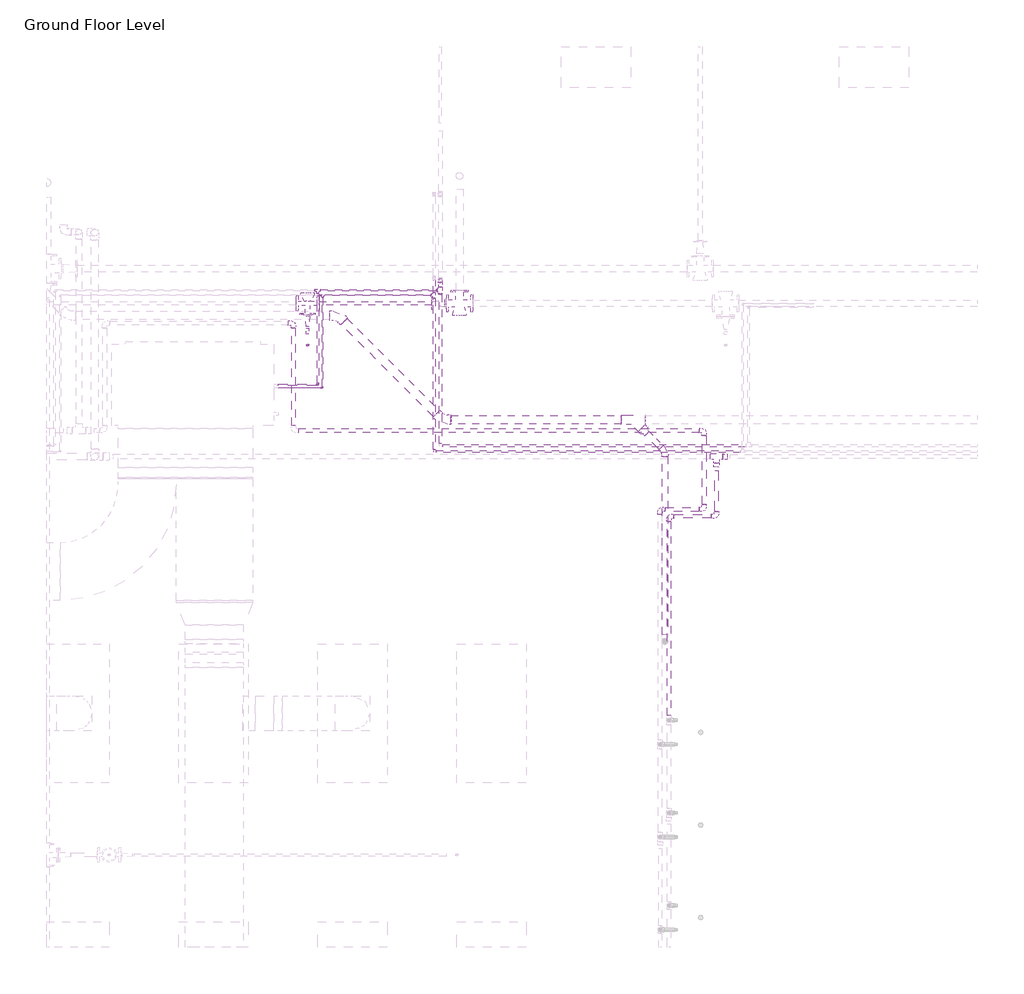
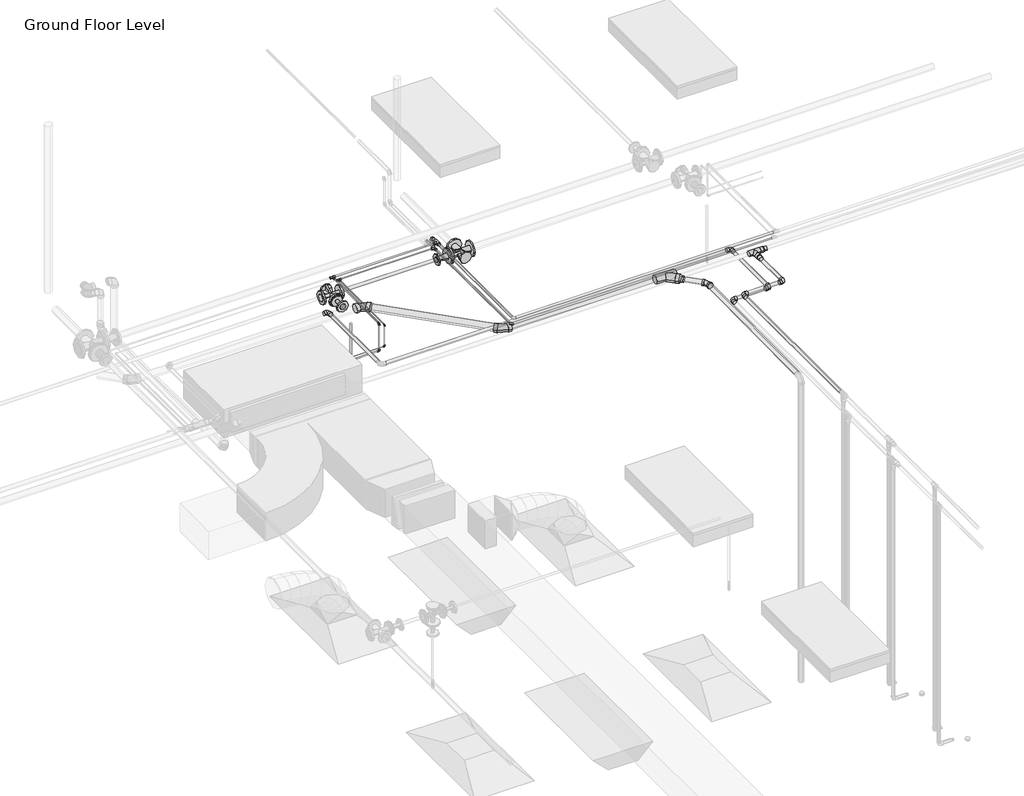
# One storey, part 53 of 72: 36 pipe fittings, 29 pipe segments, 1 fire suppression terminal.
"""IFC4 building model written with IfcOpenShell, lengths in millimetres."""

from ifc_helpers import new_model, si_unit, point, frame, frame_2d, origin, place, context, project, spatial, circle_curve, trimmed, segment, composite_curve, outline, extrude, transform, mapped, element, save
from components import m_sprinkler_pendent_15_mm_pendent_06fcbd8e, m_bend_pvc_sch_40_dwv_standard_9e3ead78, m_bend_pvc_sch_40_dwv_standard_3e306cb9, m_elbow_generic_standard_a088f956, m_elbow_generic_standard_2a704253, m_elbow_generic_standard_f25111a3, m_elbow_generic_standard_aa88c7e2, m_elbow_generic_standard_bb5ffebe, m_elbow_generic_standard_463efa77, m_reducer_flanged_cs_class_150_standard_ccf252ad, m_reducer_flanged_cs_class_150_standard_a7631c35, m_reducer_pvc_sch_40_dwv_standard_daff2b06, m_tee_generic_standard_cdc1cff5, m_tee_generic_standard_d9c36a1d, m_tee_generic_standard_3138dd84, m_tee_generic_standard_5078887e, m_tee_pvc_sch_40_standard_5dbb3026, m_tee_round_base_flanged_cs_class_150_standard_dd767e04, m_tee_round_base_flanged_cs_class_150_standard_7e5987a1, m_transition_generic_standard_6dc712c0, m_transition_generic_standard_b63c8674, m_transition_generic_standard_1c56dba2, m_transition_generic_standard_a7d161d7, m_transition_generic_standard_5a02929d, m_transition_generic_standard_5f8a9689, standard_517a5a8d, standard_08ff6011, standard_d0d0b892

model = new_model("IFC4")

# Units and contexts
model_context = context("Model", 3, world=origin())
ifc_project = project(units=[si_unit("LENGTHUNIT", "METRE", prefix="MILLI")], contexts=[model_context])

# Site, building, storey
site = spatial("IfcSite", under=ifc_project)
building = spatial("IfcBuilding", under=site)
storey = spatial("IfcBuildingStorey", under=building, Name="Ground Floor Level", Elevation=900.0)

# Fire suppression terminal
placement = place(None, origin())
m_sprinkler_pendent_15_mm_pendent_shape = m_sprinkler_pendent_15_mm_pendent_06fcbd8e(model_context)
element("IfcFireSuppressionTerminal", 1, ObjectType="M_Sprinkler - Pendent : 15 mm Pendent", at=placement, inside=storey, context=model_context, shape_type="MappedRepresentation", body=[
    mapped(m_sprinkler_pendent_15_mm_pendent_shape, transform((-3723.9852405, 14413.1701264, 3650.0), x_axis=(1.0, 0.0, 0.0), y_axis=(0.0, 1.0, 0.0), z_axis=(0.0, 0.0, 1.0))),
])

# Pipe fittings
m_bend_pvc_sch_40_dwv_standard_shape = m_bend_pvc_sch_40_dwv_standard_9e3ead78(model_context)
element("IfcPipeFitting", 2, ObjectType="M_Bend - PVC - Sch 40 - DWV : Standard", at=placement, inside=storey, context=model_context, shape_type="MappedRepresentation", body=[
    mapped(m_bend_pvc_sch_40_dwv_standard_shape, transform((-3461.339311, 14668.7334723, 4139.7239678), x_axis=(-0.707093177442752, 0.7070575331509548, 0.009427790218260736), y_axis=(-0.7070496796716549, -0.7071481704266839, 0.004713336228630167), z_axis=(0.009999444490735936, -0.003333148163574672, 0.9999444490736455))),
])
element("IfcPipeFitting", 3, ObjectType="M_Bend - PVC - Sch 40 - DWV : Standard", at=placement, inside=storey, context=model_context, shape_type="MappedRepresentation", body=[
    mapped(m_bend_pvc_sch_40_dwv_standard_shape, transform((-2561.2921336, 13768.7316659, 4127.72349), x_axis=(0.7070931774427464, -0.7070575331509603, -0.009427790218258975), y_axis=(0.7070496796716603, 0.7071481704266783, -0.0047133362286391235), z_axis=(0.009999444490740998, -0.003333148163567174, 0.9999444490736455))),
])
m_bend_pvc_sch_40_dwv_standard_2_shape = m_bend_pvc_sch_40_dwv_standard_3e306cb9(model_context)
element("IfcPipeFitting", 4, ObjectType="M_Bend - PVC - Sch 40 - DWV : Standard", at=placement, inside=storey, context=model_context, shape_type="MappedRepresentation", body=[
    mapped(m_bend_pvc_sch_40_dwv_standard_2_shape, transform((-642.2357232, 13495.4654482, 4110.1731446), x_axis=(0.0, 0.9999500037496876, 0.009999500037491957), y_axis=(-0.9999912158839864, -4.191228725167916e-05, 0.004191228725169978), z_axis=(0.004191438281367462, -0.00999941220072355, 0.9999412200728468))),
])
m_elbow_generic_standard_shape = m_elbow_generic_standard_a088f956(model_context)
element("IfcPipeFitting", 5, ObjectType="M_Elbow - Generic : Standard", at=placement, inside=storey, context=model_context, shape_type="MappedRepresentation", body=[
    mapped(m_elbow_generic_standard_shape, transform((-3637.0883718, 14069.8153534, 4380.0), x_axis=(0.0, 0.0, 1.0), y_axis=(0.0, 1.0, 0.0), z_axis=(-1.0, 0.0, 0.0))),
])
m_elbow_generic_standard_2_shape = m_elbow_generic_standard_2a704253(model_context)
element("IfcPipeFitting", 6, ObjectType="M_Elbow - Generic : Standard", at=placement, inside=storey, context=model_context, shape_type="MappedRepresentation", body=[
    mapped(m_elbow_generic_standard_2_shape, transform((-3597.0886568, 14044.8153534, 4365.0), x_axis=(0.0, 0.0, 1.0), y_axis=(0.0, 1.0, 0.0), z_axis=(-1.0, 0.0, 0.0))),
])
m_elbow_generic_standard_3_shape = m_elbow_generic_standard_f25111a3(model_context)
element("IfcPipeFitting", 7, ObjectType="M_Elbow - Generic : Standard", at=placement, inside=storey, context=model_context, shape_type="MappedRepresentation", body=[
    mapped(m_elbow_generic_standard_3_shape, transform((-3597.0886568, 14044.8153534, 4134.9021206), x_axis=(0.9999999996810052, 0.0, 2.525845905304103e-05), y_axis=(-2.525845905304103e-05, 0.0, 0.9999999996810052), z_axis=(0.0, -1.0, 0.0))),
])
m_elbow_generic_standard_4_shape = m_elbow_generic_standard_aa88c7e2(model_context)
element("IfcPipeFitting", 8, ObjectType="M_Elbow - Generic : Standard", at=placement, inside=storey, context=model_context, shape_type="MappedRepresentation", body=[
    mapped(m_elbow_generic_standard_4_shape, transform((-3637.0883718, 14069.8153534, 4084.1021206), x_axis=(0.9999999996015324, 0.0, 2.823004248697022e-05), y_axis=(-2.823004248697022e-05, 0.0, 0.9999999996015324), z_axis=(0.0, -1.0, 0.0))),
])
m_elbow_generic_standard_5_shape = m_elbow_generic_standard_bb5ffebe(model_context)
element("IfcPipeFitting", 9, ObjectType="M_Elbow - Generic : Standard", at=placement, inside=storey, context=model_context, shape_type="MappedRepresentation", body=[
    mapped(m_elbow_generic_standard_5_shape, transform((-2632.5317947, 13494.0185138, 4365.0), x_axis=(0.0, -1.0, 0.0), y_axis=(1.0, 0.0, 0.0), z_axis=(0.0, 0.0, 1.0))),
])
m_elbow_generic_standard_6_shape = m_elbow_generic_standard_463efa77(model_context)
element("IfcPipeFitting", 10, ObjectType="M_Elbow - Generic : Standard", at=placement, inside=storey, context=model_context, shape_type="MappedRepresentation", body=[
    mapped(m_elbow_generic_standard_6_shape, transform((-2579.6952605, 14974.394156, 4380.0), x_axis=(0.0, 1.0, 0.0), y_axis=(0.0, 0.0, -1.0), z_axis=(-1.0, 0.0, 0.0))),
])
m_reducer_flanged_cs_class_150_standard_shape = m_reducer_flanged_cs_class_150_standard_ccf252ad(model_context)
element("IfcPipeFitting", 11, ObjectType="M_Reducer - Flanged - CS - Class 150 : Standard", at=placement, inside=storey, context=model_context, shape_type="MappedRepresentation", body=[
    mapped(m_reducer_flanged_cs_class_150_standard_shape, transform((-3723.9852405, 14672.759591, 4291.0943441), x_axis=(0.0, -1.0, 0.0), y_axis=(1.0, 0.0, 0.0), z_axis=(0.0, 0.0, 1.0))),
])
m_reducer_flanged_cs_class_150_standard_2_shape = m_reducer_flanged_cs_class_150_standard_a7631c35(model_context)
element("IfcPipeFitting", 12, ObjectType="M_Reducer - Flanged - CS - Class 150 : Standard", at=placement, inside=storey, context=model_context, shape_type="MappedRepresentation", body=[
    mapped(m_reducer_flanged_cs_class_150_standard_2_shape, transform((-2527.9259545, 14773.4681847, 4291.0943441), x_axis=(-1.0, 0.0, 0.0), y_axis=(0.0, -1.0, 0.0), z_axis=(0.0, 0.0, 1.0))),
])
m_reducer_pvc_sch_40_dwv_standard_shape = m_reducer_pvc_sch_40_dwv_standard_daff2b06(model_context)
element("IfcPipeFitting", 13, ObjectType="M_Reducer - PVC - Sch 40 - DWV : Standard", at=placement, inside=storey, context=model_context, shape_type="MappedRepresentation", body=[
    mapped(m_reducer_pvc_sch_40_dwv_standard_shape, transform((-843.6840301, 13696.9036229, 4110.2439857), x_axis=(0.7070889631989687, -0.7070533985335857, -0.010034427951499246), y_axis=(0.707053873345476, 0.7071477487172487, -0.004108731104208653), z_axis=(0.010000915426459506, -0.004189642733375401, 0.9999412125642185))),
])
m_tee_generic_standard_shape = m_tee_generic_standard_cdc1cff5(model_context)
element("IfcPipeFitting", 14, ObjectType="M_Tee - Generic : Standard", at=placement, inside=storey, context=model_context, shape_type="MappedRepresentation", body=[
    mapped(m_tee_generic_standard_shape, transform((-3637.091079, 14885.6024145, 4380.0), x_axis=(-1.0, 0.0, 0.0), y_axis=(0.0, 1.0, 0.0), z_axis=(0.0, 0.0, -1.0))),
])
m_tee_generic_standard_2_shape = m_tee_generic_standard_d9c36a1d(model_context)
element("IfcPipeFitting", 15, ObjectType="M_Tee - Generic : Standard", at=placement, inside=storey, context=model_context, shape_type="MappedRepresentation", body=[
    mapped(m_tee_generic_standard_2_shape, transform((-3597.091079, 14844.4055749, 4365.0), x_axis=(1.0, 0.0, 0.0), y_axis=(0.0, 1.0, 0.0), z_axis=(0.0, 0.0, 1.0))),
])
m_tee_generic_standard_3_shape = m_tee_generic_standard_3138dd84(model_context)
element("IfcPipeFitting", 16, ObjectType="M_Tee - Generic : Standard", at=placement, inside=storey, context=model_context, shape_type="MappedRepresentation", body=[
    mapped(m_tee_generic_standard_3_shape, transform((-2579.6952605, 14885.6024145, 4380.0), x_axis=(0.0, 1.0, 0.0), y_axis=(1.0, 0.0, 0.0), z_axis=(0.0, 0.0, -1.0))),
])
m_tee_generic_standard_4_shape = m_tee_generic_standard_5078887e(model_context)
element("IfcPipeFitting", 17, ObjectType="M_Tee - Generic : Standard", at=placement, inside=storey, context=model_context, shape_type="MappedRepresentation", body=[
    mapped(m_tee_generic_standard_4_shape, transform((-2632.5317947, 14844.4055749, 4365.0), x_axis=(0.0, 1.0, 0.0), y_axis=(1.0, 0.0, 0.0), z_axis=(0.0, 0.0, -1.0))),
])
m_tee_pvc_sch_40_standard_shape = m_tee_pvc_sch_40_standard_5dbb3026(model_context)
element("IfcPipeFitting", 18, ObjectType="M_Tee - PVC - Sch 40 : Standard", at=placement, inside=storey, context=model_context, shape_type="MappedRepresentation", body=[
    mapped(m_tee_pvc_sch_40_standard_shape, transform((-915.515686, 13768.7316659, 4111.2633618), x_axis=(-0.9999499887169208, 0.0, 0.010001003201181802), y_axis=(4.190063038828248e-05, 0.9999912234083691, 0.004189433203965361), z_axis=(-0.010000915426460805, 0.004189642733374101, -0.9999412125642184))),
])
m_tee_round_base_flanged_cs_class_150_standard_shape = m_tee_round_base_flanged_cs_class_150_standard_dd767e04(model_context)
element("IfcPipeFitting", 19, ObjectType="M_Tee Round Base - Flanged - CS - Class 150 : Standard", at=placement, inside=storey, context=model_context, shape_type="MappedRepresentation", body=[
    mapped(m_tee_round_base_flanged_cs_class_150_standard_shape, transform((-2413.9259545, 14773.4681847, 4291.0943441), x_axis=(-1.0, 0.0, 0.0), y_axis=(0.0, -1.0, 0.0), z_axis=(0.0, 0.0, 1.0))),
])
m_tee_round_base_flanged_cs_class_150_standard_2_shape = m_tee_round_base_flanged_cs_class_150_standard_7e5987a1(model_context)
element("IfcPipeFitting", 20, ObjectType="M_Tee Round Base - Flanged - CS - Class 150 : Standard", at=placement, inside=storey, context=model_context, shape_type="MappedRepresentation", body=[
    mapped(m_tee_round_base_flanged_cs_class_150_standard_2_shape, transform((-3723.9852405, 14773.4681847, 4291.0943441), x_axis=(-1.0, 0.0, 0.0), y_axis=(0.0, 1.0, 0.0), z_axis=(0.0, 0.0, -1.0))),
])
m_transition_generic_standard_shape = m_transition_generic_standard_6dc712c0(model_context)
element("IfcPipeFitting", 21, ObjectType="M_Transition - Generic : Standard", at=placement, inside=storey, context=model_context, shape_type="MappedRepresentation", body=[
    mapped(m_transition_generic_standard_shape, transform((-3659.316079, 14885.6024145, 4380.0), x_axis=(-1.0, 0.0, 0.0), y_axis=(0.0, -1.0, 0.0), z_axis=(0.0, 0.0, 1.0))),
])
element("IfcPipeFitting", 22, ObjectType="M_Transition - Generic : Standard", at=placement, inside=storey, context=model_context, shape_type="MappedRepresentation", body=[
    mapped(m_transition_generic_standard_shape, transform((-3637.091079, 14863.3774145, 4380.0), x_axis=(0.0, -1.0, 0.0), y_axis=(1.0, 0.0, 0.0), z_axis=(0.0, 0.0, 1.0))),
])
m_transition_generic_standard_2_shape = m_transition_generic_standard_b63c8674(model_context)
element("IfcPipeFitting", 23, ObjectType="M_Transition - Generic : Standard", at=placement, inside=storey, context=model_context, shape_type="MappedRepresentation", body=[
    mapped(m_transition_generic_standard_2_shape, transform((-3616.128579, 14844.4055749, 4365.0), x_axis=(-1.0, 0.0, 0.0), y_axis=(0.0, -1.0, 0.0), z_axis=(0.0, 0.0, 1.0))),
])
element("IfcPipeFitting", 24, ObjectType="M_Transition - Generic : Standard", at=placement, inside=storey, context=model_context, shape_type="MappedRepresentation", body=[
    mapped(m_transition_generic_standard_2_shape, transform((-3597.091079, 14825.3680749, 4365.0), x_axis=(0.0, -1.0, 0.0), y_axis=(1.0, 0.0, 0.0), z_axis=(0.0, 0.0, 1.0))),
])
m_transition_generic_standard_3_shape = m_transition_generic_standard_1c56dba2(model_context)
element("IfcPipeFitting", 25, ObjectType="M_Transition - Generic : Standard", at=placement, inside=storey, context=model_context, shape_type="MappedRepresentation", body=[
    mapped(m_transition_generic_standard_3_shape, transform((-2608.2702605, 14885.6024145, 4380.0), x_axis=(-1.0, 0.0, 0.0), y_axis=(0.0, -1.0, 0.0), z_axis=(0.0, 0.0, 1.0))),
])
m_transition_generic_standard_4_shape = m_transition_generic_standard_a7d161d7(model_context)
element("IfcPipeFitting", 26, ObjectType="M_Transition - Generic : Standard", at=placement, inside=storey, context=model_context, shape_type="MappedRepresentation", body=[
    mapped(m_transition_generic_standard_4_shape, transform((-2656.3442947, 14844.4055749, 4365.0), x_axis=(-1.0, 0.0, 0.0), y_axis=(0.0, -1.0, 0.0), z_axis=(0.0, 0.0, 1.0))),
])
m_transition_generic_standard_5_shape = m_transition_generic_standard_5a02929d(model_context)
element("IfcPipeFitting", 27, ObjectType="M_Transition - Generic : Standard", at=placement, inside=storey, context=model_context, shape_type="MappedRepresentation", body=[
    mapped(m_transition_generic_standard_5_shape, transform((-2579.6952605, 14857.0274145, 4380.0), x_axis=(0.0, -1.0, 0.0), y_axis=(1.0, 0.0, 0.0), z_axis=(0.0, 0.0, 1.0))),
])
m_transition_generic_standard_6_shape = m_transition_generic_standard_5f8a9689(model_context)
element("IfcPipeFitting", 28, ObjectType="M_Transition - Generic : Standard", at=placement, inside=storey, context=model_context, shape_type="MappedRepresentation", body=[
    mapped(m_transition_generic_standard_6_shape, transform((-2632.5317947, 14820.5930749, 4365.0), x_axis=(0.0, -1.0, 0.0), y_axis=(1.0, 0.0, 0.0), z_axis=(0.0, 0.0, 1.0))),
])
standard_shape = standard_517a5a8d(model_context)
element("IfcPipeFitting", 29, ObjectType="M_Elbow - CPVC - Sch 40 : Standard", at=placement, inside=storey, context=model_context, shape_type="MappedRepresentation", body=[
    mapped(standard_shape, transform((-607.2327605, 12935.5128345, 4315.0), x_axis=(-1.0, 0.0, 0.0), y_axis=(0.0, -1.0, 0.0), z_axis=(0.0, 0.0, 1.0))),
])
element("IfcPipeFitting", 30, ObjectType="M_Elbow - CPVC - Sch 40 : Standard", at=placement, inside=storey, context=model_context, shape_type="MappedRepresentation", body=[
    mapped(standard_shape, transform((-197.2327605, 12935.5128345, 4315.0), x_axis=(1.0, 0.0, 0.0), y_axis=(0.0, 1.0, 0.0), z_axis=(0.0, 0.0, 1.0))),
])
element("IfcPipeFitting", 31, ObjectType="M_Elbow - CPVC - Sch 40 : Standard", at=placement, inside=storey, context=model_context, shape_type="MappedRepresentation", body=[
    mapped(standard_shape, transform((-304.0671674, 13675.2153534, 4250.0), x_axis=(0.0, 1.0, 0.0), y_axis=(-1.0, 0.0, 0.0), z_axis=(0.0, 0.0, 1.0))),
])
element("IfcPipeFitting", 32, ObjectType="M_Elbow - CPVC - Sch 40 : Standard", at=placement, inside=storey, context=model_context, shape_type="MappedRepresentation", body=[
    mapped(standard_shape, transform((-304.0671674, 12995.2153534, 4250.0), x_axis=(1.0, 0.0, 0.0), y_axis=(0.0, 1.0, 0.0), z_axis=(0.0, 0.0, 1.0))),
])
element("IfcPipeFitting", 33, ObjectType="M_Elbow - CPVC - Sch 40 : Standard", at=placement, inside=storey, context=model_context, shape_type="MappedRepresentation", body=[
    mapped(standard_shape, transform((-684.0671674, 12995.2153534, 4250.0), x_axis=(-1.0, 0.0, 0.0), y_axis=(0.0, -1.0, 0.0), z_axis=(0.0, 0.0, 1.0))),
])
element("IfcPipeFitting", 34, ObjectType="M_Elbow - CPVC - Sch 40 : Standard", at=placement, inside=storey, context=model_context, shape_type="MappedRepresentation", body=[
    mapped(standard_shape, transform((-3846.4489567, 14603.43487, 4250.0), x_axis=(0.0, 1.0, 0.0), y_axis=(-1.0, 0.0, 0.0), z_axis=(0.0, 0.0, 1.0))),
])
standard_2_shape = standard_08ff6011(model_context)
element("IfcPipeFitting", 35, ObjectType="M_Tee - CPVC - Sch 40 : Standard", at=placement, inside=storey, context=model_context, shape_type="MappedRepresentation", body=[
    mapped(standard_2_shape, transform((-197.2327605, 13449.9865561, 4315.0), x_axis=(1.0, 0.0, 0.0), y_axis=(0.0, 1.0, 0.0), z_axis=(0.0, 0.0, 1.0))),
])
standard_3_shape = standard_d0d0b892(model_context)
element("IfcPipeFitting", 36, ObjectType="M_Coupling Reducing - CPVC - Sch 40 : Standard", at=placement, inside=storey, context=model_context, shape_type="MappedRepresentation", body=[
    mapped(standard_3_shape, transform((-143.2577605, 13449.9865561, 4315.0), x_axis=(1.0, 0.0, 0.0), y_axis=(0.0, 1.0, 0.0), z_axis=(0.0, 0.0, 1.0))),
])
element("IfcPipeFitting", 37, ObjectType="M_Coupling Reducing - CPVC - Sch 40 : Standard", at=placement, inside=storey, context=model_context, shape_type="MappedRepresentation", body=[
    mapped(standard_3_shape, transform((-197.2327605, 13396.0115561, 4315.0), x_axis=(0.0, -1.0, 0.0), y_axis=(1.0, 0.0, 0.0), z_axis=(0.0, 0.0, 1.0))),
])

# Pipe segments
element("IfcPipeSegment", 38, ObjectType="CPVC", at=placement, inside=storey, context=model_context, shape_type="SweptSolid", body=[
    extrude(outline(composite_curve([segment(trimmed(circle_curve(frame_2d((4315.0, -607.2327605)), 16.7005), [point((4315.0, -590.5322605))], [point((4331.7005, -607.2327605))], False, "CARTESIAN"), True, "CONTINUOUS"), segment(trimmed(circle_curve(frame_2d((4315.0, -607.2327605)), 16.7005), [point((4331.7005, -607.2327605))], [point((4315.0, -623.9332605))], False, "CARTESIAN"), True, "CONTINUOUS"), segment(trimmed(circle_curve(frame_2d((4315.0, -607.2327605)), 16.7005), [point((4315.0, -623.9332605))], [point((4298.2995, -607.2327605))], False, "CARTESIAN"), True, "CONTINUOUS"), segment(trimmed(circle_curve(frame_2d((4315.0, -607.2327605)), 16.7005), [point((4298.2995, -607.2327605))], [point((4315.0, -590.5322605))], False, "CARTESIAN"), True, "CONTINUOUS")], self_intersect=False)), frame((0.0, 11215.2130345, 0.0), z_axis=(0.0, 1.0, 0.0), x_axis=(0.0, 0.0, 1.0)), (0.0, 0.0, 1.0), 1677.03725),
])
element("IfcPipeSegment", 39, ObjectType="CPVC", at=placement, inside=storey, context=model_context, shape_type="SweptSolid", body=[
    extrude(outline(composite_curve([segment(trimmed(circle_curve(frame_2d((12935.5128345, 4315.0)), 16.7005), [point((12918.8123345, 4315.0))], [point((12935.5128345, 4331.7005))], False, "CARTESIAN"), True, "CONTINUOUS"), segment(trimmed(circle_curve(frame_2d((12935.5128345, 4315.0)), 16.7005), [point((12935.5128345, 4331.7005))], [point((12952.2133345, 4315.0))], False, "CARTESIAN"), True, "CONTINUOUS"), segment(trimmed(circle_curve(frame_2d((12935.5128345, 4315.0)), 16.7005), [point((12952.2133345, 4315.0))], [point((12935.5128345, 4298.2995))], False, "CARTESIAN"), True, "CONTINUOUS"), segment(trimmed(circle_curve(frame_2d((12935.5128345, 4315.0)), 16.7005), [point((12935.5128345, 4298.2995))], [point((12918.8123345, 4315.0))], False, "CARTESIAN"), True, "CONTINUOUS")], self_intersect=False)), frame((-563.9702105, 0.0, 0.0), z_axis=(1.0, 0.0, 0.0), x_axis=(0.0, 1.0, 0.0)), (0.0, 0.0, 1.0), 323.4749),
])
element("IfcPipeSegment", 40, ObjectType="CPVC", at=placement, inside=storey, context=model_context, shape_type="SweptSolid", body=[
    extrude(outline(composite_curve([segment(trimmed(circle_curve(frame_2d((4315.0, -197.2327605)), 16.7005), [point((4315.0, -180.5322605))], [point((4331.7005, -197.2327605))], False, "CARTESIAN"), True, "CONTINUOUS"), segment(trimmed(circle_curve(frame_2d((4315.0, -197.2327605)), 16.7005), [point((4331.7005, -197.2327605))], [point((4315.0, -213.9332605))], False, "CARTESIAN"), True, "CONTINUOUS"), segment(trimmed(circle_curve(frame_2d((4315.0, -197.2327605)), 16.7005), [point((4315.0, -213.9332605))], [point((4298.2995, -197.2327605))], False, "CARTESIAN"), True, "CONTINUOUS"), segment(trimmed(circle_curve(frame_2d((4315.0, -197.2327605)), 16.7005), [point((4298.2995, -197.2327605))], [point((4315.0, -180.5322605))], False, "CARTESIAN"), True, "CONTINUOUS")], self_intersect=False)), frame((0.0, 12978.7753845, 0.0), z_axis=(0.0, 1.0, 0.0), x_axis=(0.0, 0.0, 1.0)), (0.0, 0.0, 1.0), 351.1172966),
])
element("IfcPipeSegment", 41, ObjectType="CPVC", at=placement, inside=storey, context=model_context, shape_type="SweptSolid", body=[
    extrude(outline(composite_curve([segment(trimmed(circle_curve(frame_2d((4250.0, -304.0671674)), 16.7005), [point((4250.0, -320.7676674))], [point((4233.2995, -304.0671674))], False, "CARTESIAN"), True, "CONTINUOUS"), segment(trimmed(circle_curve(frame_2d((4250.0, -304.0671674)), 16.7005), [point((4233.2995, -304.0671674))], [point((4250.0, -287.3666674))], False, "CARTESIAN"), True, "CONTINUOUS"), segment(trimmed(circle_curve(frame_2d((4250.0, -304.0671674)), 16.7005), [point((4250.0, -287.3666674))], [point((4266.7005, -304.0671674))], False, "CARTESIAN"), True, "CONTINUOUS"), segment(trimmed(circle_curve(frame_2d((4250.0, -304.0671674)), 16.7005), [point((4266.7005, -304.0671674))], [point((4250.0, -320.7676674))], False, "CARTESIAN"), True, "CONTINUOUS")], self_intersect=False)), frame((0.0, 13038.4779034, 0.0), z_axis=(0.0, 1.0, 0.0), x_axis=(0.0, 0.0, 1.0)), (0.0, 0.0, 1.0), 593.4749),
])
element("IfcPipeSegment", 42, ObjectType="CPVC", at=placement, inside=storey, context=model_context, shape_type="SweptSolid", body=[
    extrude(outline(composite_curve([segment(trimmed(circle_curve(frame_2d((12995.2153534, 4250.0)), 16.7005), [point((13011.9158534, 4250.0))], [point((12995.2153534, 4233.2995))], False, "CARTESIAN"), True, "CONTINUOUS"), segment(trimmed(circle_curve(frame_2d((12995.2153534, 4250.0)), 16.7005), [point((12995.2153534, 4233.2995))], [point((12978.5148534, 4250.0))], False, "CARTESIAN"), True, "CONTINUOUS"), segment(trimmed(circle_curve(frame_2d((12995.2153534, 4250.0)), 16.7005), [point((12978.5148534, 4250.0))], [point((12995.2153534, 4266.7005))], False, "CARTESIAN"), True, "CONTINUOUS"), segment(trimmed(circle_curve(frame_2d((12995.2153534, 4250.0)), 16.7005), [point((12995.2153534, 4266.7005))], [point((13011.9158534, 4250.0))], False, "CARTESIAN"), True, "CONTINUOUS")], self_intersect=False)), frame((-640.8046174, 0.0, 0.0), z_axis=(1.0, 0.0, 0.0), x_axis=(0.0, 1.0, 0.0)), (0.0, 0.0, 1.0), 293.4749),
])
element("IfcPipeSegment", 43, ObjectType="CPVC", at=placement, inside=storey, context=model_context, shape_type="SweptSolid", body=[
    extrude(outline(composite_curve([segment(trimmed(circle_curve(frame_2d((4250.0, -3846.4489567)), 16.7005), [point((4250.0, -3863.1494567))], [point((4233.2995, -3846.4489567))], False, "CARTESIAN"), True, "CONTINUOUS"), segment(trimmed(circle_curve(frame_2d((4250.0, -3846.4489567)), 16.7005), [point((4233.2995, -3846.4489567))], [point((4250.0, -3829.7484567))], False, "CARTESIAN"), True, "CONTINUOUS"), segment(trimmed(circle_curve(frame_2d((4250.0, -3846.4489567)), 16.7005), [point((4250.0, -3829.7484567))], [point((4266.7005, -3846.4489567))], False, "CARTESIAN"), True, "CONTINUOUS"), segment(trimmed(circle_curve(frame_2d((4250.0, -3846.4489567)), 16.7005), [point((4266.7005, -3846.4489567))], [point((4250.0, -3863.1494567))], False, "CARTESIAN"), True, "CONTINUOUS")], self_intersect=False)), frame((0.0, 13718.4779034, 0.0), z_axis=(0.0, 1.0, 0.0), x_axis=(0.0, 0.0, 1.0)), (0.0, 0.0, 1.0), 841.6944166),
])
element("IfcPipeSegment", 44, ObjectType="CPVC", at=placement, inside=storey, context=model_context, shape_type="SweptSolid", body=[
    extrude(outline(composite_curve([segment(trimmed(circle_curve(frame_2d((13675.2153534, 4250.0)), 16.7005), [point((13691.9158534, 4250.0))], [point((13675.2153534, 4233.2995))], False, "CARTESIAN"), True, "CONTINUOUS"), segment(trimmed(circle_curve(frame_2d((13675.2153534, 4250.0)), 16.7005), [point((13675.2153534, 4233.2995))], [point((13658.5148534, 4250.0))], False, "CARTESIAN"), True, "CONTINUOUS"), segment(trimmed(circle_curve(frame_2d((13675.2153534, 4250.0)), 16.7005), [point((13658.5148534, 4250.0))], [point((13675.2153534, 4266.7005))], False, "CARTESIAN"), True, "CONTINUOUS"), segment(trimmed(circle_curve(frame_2d((13675.2153534, 4250.0)), 16.7005), [point((13675.2153534, 4266.7005))], [point((13691.9158534, 4250.0))], False, "CARTESIAN"), True, "CONTINUOUS")], self_intersect=False)), frame((-3803.1864067, 0.0, 0.0), z_axis=(1.0, 0.0, 0.0), x_axis=(0.0, 1.0, 0.0)), (0.0, 0.0, 1.0), 3455.8566893),
])
element("IfcPipeSegment", 45, ObjectType="Copper", at=placement, inside=storey, context=model_context, shape_type="SweptSolid", body=[
    extrude(outline(composite_curve([segment(trimmed(circle_curve(frame_2d((4380.0, -2579.6952605)), 11.5), [point((4380.0, -2591.1952605))], [point((4368.5, -2579.6952605))], False, "CARTESIAN"), True, "CONTINUOUS"), segment(trimmed(circle_curve(frame_2d((4380.0, -2579.6952605)), 11.5), [point((4368.5, -2579.6952605))], [point((4380.0, -2568.1952605))], False, "CARTESIAN"), True, "CONTINUOUS"), segment(trimmed(circle_curve(frame_2d((4380.0, -2579.6952605)), 11.5), [point((4380.0, -2568.1952605))], [point((4391.5, -2579.6952605))], False, "CARTESIAN"), True, "CONTINUOUS"), segment(trimmed(circle_curve(frame_2d((4380.0, -2579.6952605)), 11.5), [point((4391.5, -2579.6952605))], [point((4380.0, -2591.1952605))], False, "CARTESIAN"), True, "CONTINUOUS")], self_intersect=False)), frame((0.0, 13564.2653534, 0.0), z_axis=(0.0, 1.0, 0.0), x_axis=(0.0, 0.0, 1.0)), (0.0, 0.0, 1.0), 1284.8245611),
])
element("IfcPipeSegment", 46, ObjectType="Copper", at=placement, inside=storey, context=model_context, shape_type="SweptSolid", body=[
    extrude(outline(composite_curve([segment(trimmed(circle_curve(frame_2d((4365.0, -2632.5317947)), 8.1), [point((4365.0, -2640.6317947))], [point((4356.9, -2632.5317947))], False, "CARTESIAN"), True, "CONTINUOUS"), segment(trimmed(circle_curve(frame_2d((4365.0, -2632.5317947)), 8.1), [point((4356.9, -2632.5317947))], [point((4365.0, -2624.4317947))], False, "CARTESIAN"), True, "CONTINUOUS"), segment(trimmed(circle_curve(frame_2d((4365.0, -2632.5317947)), 8.1), [point((4365.0, -2624.4317947))], [point((4373.1, -2632.5317947))], False, "CARTESIAN"), True, "CONTINUOUS"), segment(trimmed(circle_curve(frame_2d((4365.0, -2632.5317947)), 8.1), [point((4373.1, -2632.5317947))], [point((4365.0, -2640.6317947))], False, "CARTESIAN"), True, "CONTINUOUS")], self_intersect=False)), frame((0.0, 13509.8935138, 0.0), z_axis=(0.0, 1.0, 0.0), x_axis=(0.0, 0.0, 1.0)), (0.0, 0.0, 1.0), 1305.1433111),
])
element("IfcPipeSegment", 47, ObjectType="Copper", at=placement, inside=storey, context=model_context, shape_type="SweptSolid", body=[
    extrude(outline(composite_curve([segment(trimmed(circle_curve(frame_2d((0.0, 6.5)), 6.5), [point((-6.5, 6.5))], [point((0.0, 13.0))], False, "CARTESIAN"), True, "CONTINUOUS"), segment(trimmed(circle_curve(frame_2d((0.0, 6.5)), 6.5), [point((0.0, 13.0))], [point((6.5, 6.5))], False, "CARTESIAN"), True, "CONTINUOUS"), segment(trimmed(circle_curve(frame_2d((0.0, 6.5)), 6.5), [point((6.5, 6.5))], [point((0.0, 0.0))], False, "CARTESIAN"), True, "CONTINUOUS"), segment(trimmed(circle_curve(frame_2d((0.0, 6.5)), 6.5), [point((0.0, 0.0))], [point((-6.5, 6.5))], False, "CARTESIAN"), True, "CONTINUOUS")], self_intersect=False)), frame((-3977.0908954, 14069.8153534, 4077.5925223), z_axis=(0.9999999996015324, 0.0, 2.8230042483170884e-05), x_axis=(0.0, 1.0, 0.0)), (0.0, 0.0, 1.0), 325.7156105),
])
element("IfcPipeSegment", 48, ObjectType="Copper", at=placement, inside=storey, context=model_context, shape_type="SweptSolid", body=[
    extrude(outline(composite_curve([segment(trimmed(circle_curve(frame_2d((0.0, 6.5)), 6.5), [point((0.0, 13.0))], [point((6.5, 6.5))], False, "CARTESIAN"), True, "CONTINUOUS"), segment(trimmed(circle_curve(frame_2d((0.0, 6.5)), 6.5), [point((6.5, 6.5))], [point((0.0, 0.0))], False, "CARTESIAN"), True, "CONTINUOUS"), segment(trimmed(circle_curve(frame_2d((0.0, 6.5)), 6.5), [point((0.0, 0.0))], [point((-6.5, 6.5))], False, "CARTESIAN"), True, "CONTINUOUS"), segment(trimmed(circle_curve(frame_2d((0.0, 6.5)), 6.5), [point((-6.5, 6.5))], [point((0.0, 13.0))], False, "CARTESIAN"), True, "CONTINUOUS")], self_intersect=False)), frame((-3643.5883718, 14084.1028307, 4380.0), z_axis=(-3.495363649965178e-06, 0.9999999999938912, 0.0), x_axis=(0.0, 0.0, 1.0)), (0.0, 0.0, 1.0), 774.5120611),
])
element("IfcPipeSegment", 49, ObjectType="Copper", at=placement, inside=storey, context=model_context, shape_type="SweptSolid", body=[
    extrude(outline(composite_curve([segment(trimmed(circle_curve(frame_2d((0.0, 3.35)), 3.35), [point((-3.35, 3.35))], [point((0.0, 6.7))], False, "CARTESIAN"), True, "CONTINUOUS"), segment(trimmed(circle_curve(frame_2d((0.0, 3.35)), 3.35), [point((0.0, 6.7))], [point((3.35, 3.35))], False, "CARTESIAN"), True, "CONTINUOUS"), segment(trimmed(circle_curve(frame_2d((0.0, 3.35)), 3.35), [point((3.35, 3.35))], [point((0.0, 0.0))], False, "CARTESIAN"), True, "CONTINUOUS"), segment(trimmed(circle_curve(frame_2d((0.0, 3.35)), 3.35), [point((0.0, 0.0))], [point((-3.35, 3.35))], False, "CARTESIAN"), True, "CONTINUOUS")], self_intersect=False)), frame((-3977.0909943, 14044.8153534, 4131.5425223), z_axis=(0.9999999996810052, 0.0, 2.5258459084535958e-05), x_axis=(0.0, 1.0, 0.0)), (0.0, 0.0, 1.0), 368.8652035),
])
element("IfcPipeSegment", 50, ObjectType="Copper", at=placement, inside=storey, context=model_context, shape_type="SweptSolid", body=[
    extrude(outline(composite_curve([segment(trimmed(circle_curve(frame_2d((0.0, 3.35)), 3.35), [point((0.0, 6.7))], [point((3.35, 3.35))], False, "CARTESIAN"), True, "CONTINUOUS"), segment(trimmed(circle_curve(frame_2d((0.0, 3.35)), 3.35), [point((3.35, 3.35))], [point((0.0, 0.0))], False, "CARTESIAN"), True, "CONTINUOUS"), segment(trimmed(circle_curve(frame_2d((0.0, 3.35)), 3.35), [point((0.0, 0.0))], [point((-3.35, 3.35))], False, "CARTESIAN"), True, "CONTINUOUS"), segment(trimmed(circle_curve(frame_2d((0.0, 3.35)), 3.35), [point((-3.35, 3.35))], [point((0.0, 6.7))], False, "CARTESIAN"), True, "CONTINUOUS")], self_intersect=False)), frame((-3600.4386568, 14055.9528428, 4365.0), z_axis=(-3.1611664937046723e-06, 0.9999999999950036, 0.0), x_axis=(0.0, 0.0, 1.0)), (0.0, 0.0, 1.0), 766.2464715),
])
element("IfcPipeSegment", 51, ObjectType="Copper", at=placement, inside=storey, context=model_context, shape_type="SweptSolid", body=[
    extrude(outline(composite_curve([segment(trimmed(circle_curve(frame_2d((-3597.0886568, 14044.8153534)), 3.35), [point((-3600.4386568, 14044.8153534))], [point((-3597.0886568, 14048.1653534))], False, "CARTESIAN"), True, "CONTINUOUS"), segment(trimmed(circle_curve(frame_2d((-3597.0886568, 14044.8153534)), 3.35), [point((-3597.0886568, 14048.1653534))], [point((-3593.7386568, 14044.8153534))], False, "CARTESIAN"), True, "CONTINUOUS"), segment(trimmed(circle_curve(frame_2d((-3597.0886568, 14044.8153534)), 3.35), [point((-3593.7386568, 14044.8153534))], [point((-3597.0886568, 14041.4653534))], False, "CARTESIAN"), True, "CONTINUOUS"), segment(trimmed(circle_curve(frame_2d((-3597.0886568, 14044.8153534)), 3.35), [point((-3597.0886568, 14041.4653534))], [point((-3600.4386568, 14044.8153534))], False, "CARTESIAN"), True, "CONTINUOUS")], self_intersect=False)), frame((0.0, 0.0, 4146.0393393), z_axis=(0.0, 0.0, 1.0), x_axis=(1.0, 0.0, 0.0)), (0.0, 0.0, 1.0), 207.8231607),
])
element("IfcPipeSegment", 52, ObjectType="Copper", at=placement, inside=storey, context=model_context, shape_type="SweptSolid", body=[
    extrude(outline(composite_curve([segment(trimmed(circle_curve(frame_2d((-3637.0883718, 14069.8153534)), 6.5), [point((-3643.5883718, 14069.8153534))], [point((-3637.0883718, 14076.3153534))], False, "CARTESIAN"), True, "CONTINUOUS"), segment(trimmed(circle_curve(frame_2d((-3637.0883718, 14069.8153534)), 6.5), [point((-3637.0883718, 14076.3153534))], [point((-3630.5883718, 14069.8153534))], False, "CARTESIAN"), True, "CONTINUOUS"), segment(trimmed(circle_curve(frame_2d((-3637.0883718, 14069.8153534)), 6.5), [point((-3630.5883718, 14069.8153534))], [point((-3637.0883718, 14063.3153534))], False, "CARTESIAN"), True, "CONTINUOUS"), segment(trimmed(circle_curve(frame_2d((-3637.0883718, 14069.8153534)), 6.5), [point((-3637.0883718, 14063.3153534))], [point((-3643.5883718, 14069.8153534))], False, "CARTESIAN"), True, "CONTINUOUS")], self_intersect=False)), frame((0.0, 0.0, 4098.3892173), z_axis=(0.0, 0.0, 1.0), x_axis=(1.0, 0.0, 0.0)), (0.0, 0.0, 1.0), 267.3232827),
])
element("IfcPipeSegment", 53, ObjectType="Copper", at=placement, inside=storey, context=model_context, shape_type="SweptSolid", body=[
    extrude(outline(composite_curve([segment(trimmed(circle_curve(frame_2d((14885.6024145, 4380.0)), 8.1), [point((14877.5024145, 4380.0))], [point((14885.6024145, 4388.1))], False, "CARTESIAN"), True, "CONTINUOUS"), segment(trimmed(circle_curve(frame_2d((14885.6024145, 4380.0)), 8.1), [point((14885.6024145, 4388.1))], [point((14893.7024145, 4380.0))], False, "CARTESIAN"), True, "CONTINUOUS"), segment(trimmed(circle_curve(frame_2d((14885.6024145, 4380.0)), 8.1), [point((14893.7024145, 4380.0))], [point((14885.6024145, 4371.9))], False, "CARTESIAN"), True, "CONTINUOUS"), segment(trimmed(circle_curve(frame_2d((14885.6024145, 4380.0)), 8.1), [point((14885.6024145, 4371.9))], [point((14877.5024145, 4380.0))], False, "CARTESIAN"), True, "CONTINUOUS")], self_intersect=False)), frame((-3614.866079, 0.0, 0.0), z_axis=(1.0, 0.0, 0.0), x_axis=(0.0, 1.0, 0.0)), (0.0, 0.0, 1.0), 998.6583185),
])
element("IfcPipeSegment", 54, ObjectType="Copper", at=placement, inside=storey, context=model_context, shape_type="SweptSolid", body=[
    extrude(outline(composite_curve([segment(trimmed(circle_curve(frame_2d((14844.4055749, 4365.0)), 4.9), [point((14849.3055749, 4365.0))], [point((14844.4055749, 4360.1))], False, "CARTESIAN"), True, "CONTINUOUS"), segment(trimmed(circle_curve(frame_2d((14844.4055749, 4365.0)), 4.9), [point((14844.4055749, 4360.1))], [point((14839.5055749, 4365.0))], False, "CARTESIAN"), True, "CONTINUOUS"), segment(trimmed(circle_curve(frame_2d((14844.4055749, 4365.0)), 4.9), [point((14839.5055749, 4365.0))], [point((14844.4055749, 4369.9))], False, "CARTESIAN"), True, "CONTINUOUS"), segment(trimmed(circle_curve(frame_2d((14844.4055749, 4365.0)), 4.9), [point((14844.4055749, 4369.9))], [point((14849.3055749, 4365.0))], False, "CARTESIAN"), True, "CONTINUOUS")], self_intersect=False)), frame((-3578.053579, 0.0, 0.0), z_axis=(1.0, 0.0, 0.0), x_axis=(0.0, 1.0, 0.0)), (0.0, 0.0, 1.0), 916.1530343),
])
element("IfcPipeSegment", 55, ObjectType="Copper", at=placement, inside=storey, context=model_context, shape_type="SweptSolid", body=[
    extrude(outline(composite_curve([segment(trimmed(circle_curve(frame_2d((13494.0185138, 4365.0)), 8.1), [point((13485.9185138, 4365.0))], [point((13494.0185138, 4373.1))], False, "CARTESIAN"), True, "CONTINUOUS"), segment(trimmed(circle_curve(frame_2d((13494.0185138, 4365.0)), 8.1), [point((13494.0185138, 4373.1))], [point((13502.1185138, 4365.0))], False, "CARTESIAN"), True, "CONTINUOUS"), segment(trimmed(circle_curve(frame_2d((13494.0185138, 4365.0)), 8.1), [point((13502.1185138, 4365.0))], [point((13494.0185138, 4356.9))], False, "CARTESIAN"), True, "CONTINUOUS"), segment(trimmed(circle_curve(frame_2d((13494.0185138, 4365.0)), 8.1), [point((13494.0185138, 4356.9))], [point((13485.9185138, 4365.0))], False, "CARTESIAN"), True, "CONTINUOUS")], self_intersect=False)), frame((-2616.6567947, 0.0, 0.0), z_axis=(1.0, 0.0, 0.0), x_axis=(0.0, 1.0, 0.0)), (0.0, 0.0, 1.0), 2624.4125),
])
element("IfcPipeSegment", 56, ObjectType="Copper", at=placement, inside=storey, context=model_context, shape_type="SweptSolid", body=[
    extrude(outline(composite_curve([segment(trimmed(circle_curve(frame_2d((13545.2153534, 4380.0)), 11.5), [point((13533.7153534, 4380.0))], [point((13545.2153534, 4391.5))], False, "CARTESIAN"), True, "CONTINUOUS"), segment(trimmed(circle_curve(frame_2d((13545.2153534, 4380.0)), 11.5), [point((13545.2153534, 4391.5))], [point((13556.7153534, 4380.0))], False, "CARTESIAN"), True, "CONTINUOUS"), segment(trimmed(circle_curve(frame_2d((13545.2153534, 4380.0)), 11.5), [point((13556.7153534, 4380.0))], [point((13545.2153534, 4368.5))], False, "CARTESIAN"), True, "CONTINUOUS"), segment(trimmed(circle_curve(frame_2d((13545.2153534, 4380.0)), 11.5), [point((13545.2153534, 4368.5))], [point((13533.7153534, 4380.0))], False, "CARTESIAN"), True, "CONTINUOUS")], self_intersect=False)), frame((-2560.6452605, 0.0, 0.0), z_axis=(1.0, 0.0, 0.0), x_axis=(0.0, 1.0, 0.0)), (0.0, 0.0, 1.0), 2614.9125),
])
element("IfcPipeSegment", 57, ObjectType="Copper", at=placement, inside=storey, context=model_context, shape_type="SweptSolid", body=[
    extrude(outline(composite_curve([segment(trimmed(circle_curve(frame_2d((4365.0, -2632.5317947)), 9.75), [point((4365.0, -2622.7817947))], [point((4374.75, -2632.5317947))], False, "CARTESIAN"), True, "CONTINUOUS"), segment(trimmed(circle_curve(frame_2d((4365.0, -2632.5317947)), 9.75), [point((4374.75, -2632.5317947))], [point((4365.0, -2642.2817947))], False, "CARTESIAN"), True, "CONTINUOUS"), segment(trimmed(circle_curve(frame_2d((4365.0, -2632.5317947)), 9.75), [point((4365.0, -2642.2817947))], [point((4355.25, -2632.5317947))], False, "CARTESIAN"), True, "CONTINUOUS"), segment(trimmed(circle_curve(frame_2d((4365.0, -2632.5317947)), 9.75), [point((4355.25, -2632.5317947))], [point((4365.0, -2622.7817947))], False, "CARTESIAN"), True, "CONTINUOUS")], self_intersect=False)), frame((0.0, 14868.2180749, 0.0), z_axis=(0.0, 1.0, 0.0), x_axis=(0.0, 0.0, 1.0)), (0.0, 0.0, 1.0), 105.0971644),
])
element("IfcPipeSegment", 58, ObjectType="Copper", at=placement, inside=storey, context=model_context, shape_type="SweptSolid", body=[
    extrude(outline(composite_curve([segment(trimmed(circle_curve(frame_2d((4380.0, -2579.6952605)), 14.5), [point((4380.0, -2565.1952605))], [point((4394.5, -2579.6952605))], False, "CARTESIAN"), True, "CONTINUOUS"), segment(trimmed(circle_curve(frame_2d((4380.0, -2579.6952605)), 14.5), [point((4394.5, -2579.6952605))], [point((4380.0, -2594.1952605))], False, "CARTESIAN"), True, "CONTINUOUS"), segment(trimmed(circle_curve(frame_2d((4380.0, -2579.6952605)), 14.5), [point((4380.0, -2594.1952605))], [point((4365.5, -2579.6952605))], False, "CARTESIAN"), True, "CONTINUOUS"), segment(trimmed(circle_curve(frame_2d((4380.0, -2579.6952605)), 14.5), [point((4365.5, -2579.6952605))], [point((4380.0, -2565.1952605))], False, "CARTESIAN"), True, "CONTINUOUS")], self_intersect=False)), frame((0.0, 14914.1774145, 0.0), z_axis=(0.0, 1.0, 0.0), x_axis=(0.0, 0.0, 1.0)), (0.0, 0.0, 1.0), 37.9917415),
])
element("IfcPipeSegment", 59, ObjectType="Copper", at=placement, inside=storey, context=model_context, shape_type="SweptSolid", body=[
    extrude(outline(composite_curve([segment(trimmed(circle_curve(frame_2d((-2579.6952605, 14974.394156)), 14.5), [point((-2565.1952605, 14974.394156))], [point((-2579.6952605, 14959.894156))], False, "CARTESIAN"), True, "CONTINUOUS"), segment(trimmed(circle_curve(frame_2d((-2579.6952605, 14974.394156)), 14.5), [point((-2579.6952605, 14959.894156))], [point((-2594.1952605, 14974.394156))], False, "CARTESIAN"), True, "CONTINUOUS"), segment(trimmed(circle_curve(frame_2d((-2579.6952605, 14974.394156)), 14.5), [point((-2594.1952605, 14974.394156))], [point((-2579.6952605, 14988.894156))], False, "CARTESIAN"), True, "CONTINUOUS"), segment(trimmed(circle_curve(frame_2d((-2579.6952605, 14974.394156)), 14.5), [point((-2579.6952605, 14988.894156))], [point((-2565.1952605, 14974.394156))], False, "CARTESIAN"), True, "CONTINUOUS")], self_intersect=False)), frame((0.0, 0.0, 4322.225), z_axis=(0.0, 0.0, 1.0), x_axis=(1.0, 0.0, 0.0)), (0.0, 0.0, 1.0), 35.55),
])
element("IfcPipeSegment", 60, ObjectType="PVC - DWV", at=placement, inside=storey, context=model_context, shape_type="SweptSolid", body=[
    extrude(outline(composite_curve([segment(trimmed(circle_curve(frame_2d((0.0, -36.5125)), 36.5125), [point((-36.5108772, -36.8567342))], [point((-0.3442341, -0.0016227))], False, "CARTESIAN"), True, "CONTINUOUS"), segment(trimmed(circle_curve(frame_2d((0.0, -36.5125)), 36.5125), [point((-0.3442341, -0.0016227))], [point((36.5108773, -36.1682657))], False, "CARTESIAN"), True, "CONTINUOUS"), segment(trimmed(circle_curve(frame_2d((0.0, -36.5125)), 36.5125), [point((36.5108773, -36.1682657))], [point((0.3442343, -73.0233772))], False, "CARTESIAN"), True, "CONTINUOUS"), segment(trimmed(circle_curve(frame_2d((0.0, -36.5125)), 36.5125), [point((0.3442343, -73.0233772))], [point((-36.5108772, -36.8567342))], False, "CARTESIAN"), True, "CONTINUOUS")], self_intersect=False)), frame((-2613.257958, 13821.1816791, 4091.9071043), z_axis=(-0.7070931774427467, 0.70705753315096, 0.009427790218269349), x_axis=(0.7071203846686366, 0.7070303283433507, 0.00942742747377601)), (0.0, 0.0, 1.0), 1125.8990386),
])
element("IfcPipeSegment", 61, ObjectType="PVC - DWV", at=placement, inside=storey, context=model_context, shape_type="SweptSolid", body=[
    extrude(outline(composite_curve([segment(trimmed(circle_curve(frame_2d((0.0, 24.13)), 24.13), [point((24.13, 24.13))], [point((0.0, 0.0))], False, "CARTESIAN"), True, "CONTINUOUS"), segment(trimmed(circle_curve(frame_2d((0.0, 24.13)), 24.13), [point((0.0, 0.0))], [point((-24.13, 24.13))], False, "CARTESIAN"), True, "CONTINUOUS"), segment(trimmed(circle_curve(frame_2d((0.0, 24.13)), 24.13), [point((-24.13, 24.13))], [point((0.0, 48.26))], False, "CARTESIAN"), True, "CONTINUOUS"), segment(trimmed(circle_curve(frame_2d((0.0, 24.13)), 24.13), [point((0.0, 48.26))], [point((24.13, 24.13))], False, "CARTESIAN"), True, "CONTINUOUS")], self_intersect=False)), frame((-642.2357232, 11917.2058139, 4118.5217547), z_axis=(0.0, 0.9999500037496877, 0.009999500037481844), x_axis=(1.0, 0.0, 0.0)), (0.0, 0.0, 1.0), 1532.0724454),
])
element("IfcPipeSegment", 62, ObjectType="PVC - DWV", at=placement, inside=storey, context=model_context, shape_type="SweptSolid", body=[
    extrude(outline(composite_curve([segment(trimmed(circle_curve(frame_2d((0.0, 24.13)), 24.13), [point((24.1287851, 24.3721308))], [point((0.2421308, 0.0012148))], False, "CARTESIAN"), True, "CONTINUOUS"), segment(trimmed(circle_curve(frame_2d((0.0, 24.13)), 24.13), [point((0.2421308, 0.0012148))], [point((-24.1287851, 23.8878693))], False, "CARTESIAN"), True, "CONTINUOUS"), segment(trimmed(circle_curve(frame_2d((0.0, 24.13)), 24.13), [point((-24.1287851, 23.8878693))], [point((-0.2421307, 48.2587851))], False, "CARTESIAN"), True, "CONTINUOUS"), segment(trimmed(circle_curve(frame_2d((0.0, 24.13)), 24.13), [point((-0.2421307, 48.2587851))], [point((24.1287851, 24.3721308))], False, "CARTESIAN"), True, "CONTINUOUS")], self_intersect=False)), frame((-674.7793513, 13527.6650235, 4134.7625475), z_axis=(-0.7070889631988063, 0.7070533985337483, 0.010034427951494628), x_axis=(0.7071245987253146, 0.707017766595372, 0.010033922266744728)), (0.0, 0.0, 1.0), 171.3992376),
])
element("IfcPipeSegment", 63, ObjectType="PVC - DWV", at=placement, inside=storey, context=model_context, shape_type="SweptSolid", body=[
    extrude(outline(composite_curve([segment(trimmed(circle_curve(frame_2d((0.0, -36.5125)), 36.5125), [point((0.0, -73.025))], [point((-36.5125, -36.5125))], False, "CARTESIAN"), True, "CONTINUOUS"), segment(trimmed(circle_curve(frame_2d((0.0, -36.5125)), 36.5125), [point((-36.5125, -36.5125))], [point((0.0, 0.0))], False, "CARTESIAN"), True, "CONTINUOUS"), segment(trimmed(circle_curve(frame_2d((0.0, -36.5125)), 36.5125), [point((0.0, 0.0))], [point((36.5125, -36.5125))], False, "CARTESIAN"), True, "CONTINUOUS"), segment(trimmed(circle_curve(frame_2d((0.0, -36.5125)), 36.5125), [point((36.5125, -36.5125))], [point((0.0, -73.025))], False, "CARTESIAN"), True, "CONTINUOUS")], self_intersect=False)), frame((-1017.0984673, 13805.2441659, 4112.2793423), z_axis=(-0.9999499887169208, 0.0, 0.010001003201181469), x_axis=(0.010001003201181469, 0.0, 0.9999499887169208)), (0.0, 0.0, 1.0), 1470.7787086),
])
element("IfcPipeSegment", 64, ObjectType="Steel flanged", at=placement, inside=storey, context=model_context, shape_type="SweptSolid", body=[
    extrude(outline(composite_curve([segment(trimmed(circle_curve(frame_2d((-3723.9852405, 14413.1701264)), 10.668), [point((-3734.6532405, 14413.1701264))], [point((-3723.9852405, 14423.8381264))], False, "CARTESIAN"), True, "CONTINUOUS"), segment(trimmed(circle_curve(frame_2d((-3723.9852405, 14413.1701264)), 10.668), [point((-3723.9852405, 14423.8381264))], [point((-3713.3172405, 14413.1701264))], False, "CARTESIAN"), True, "CONTINUOUS"), segment(trimmed(circle_curve(frame_2d((-3723.9852405, 14413.1701264)), 10.668), [point((-3713.3172405, 14413.1701264))], [point((-3723.9852405, 14402.5021264))], False, "CARTESIAN"), True, "CONTINUOUS"), segment(trimmed(circle_curve(frame_2d((-3723.9852405, 14413.1701264)), 10.668), [point((-3723.9852405, 14402.5021264))], [point((-3734.6532405, 14413.1701264))], False, "CARTESIAN"), True, "CONTINUOUS")], self_intersect=False)), frame((0.0, 0.0, 3650.0), z_axis=(0.0, 0.0, 1.0), x_axis=(1.0, 0.0, 0.0)), (0.0, 0.0, 1.0), 548.0857504),
])
element("IfcPipeSegment", 65, ObjectType="Steel flanged", at=placement, inside=storey, context=model_context, shape_type="SweptSolid", body=[
    extrude(outline(composite_curve([segment(trimmed(circle_curve(frame_2d((4291.0943441, -3723.9852405)), 10.668), [point((4291.0943441, -3713.3172405))], [point((4301.7623441, -3723.9852405))], False, "CARTESIAN"), True, "CONTINUOUS"), segment(trimmed(circle_curve(frame_2d((4291.0943441, -3723.9852405)), 10.668), [point((4301.7623441, -3723.9852405))], [point((4291.0943441, -3734.6532405))], False, "CARTESIAN"), True, "CONTINUOUS"), segment(trimmed(circle_curve(frame_2d((4291.0943441, -3723.9852405)), 10.668), [point((4291.0943441, -3734.6532405))], [point((4280.4263441, -3723.9852405))], False, "CARTESIAN"), True, "CONTINUOUS"), segment(trimmed(circle_curve(frame_2d((4291.0943441, -3723.9852405)), 10.668), [point((4280.4263441, -3723.9852405))], [point((4291.0943441, -3713.3172405))], False, "CARTESIAN"), True, "CONTINUOUS")], self_intersect=False)), frame((0.0, 14506.1787201, 0.0), z_axis=(0.0, 1.0, 0.0), x_axis=(0.0, 0.0, 1.0)), (0.0, 0.0, 1.0), 52.5808709),
])
element("IfcPipeSegment", 66, ObjectType="Steel flanged", at=placement, inside=storey, context=model_context, shape_type="SweptSolid", body=[
    extrude(outline(composite_curve([segment(trimmed(circle_curve(frame_2d((14773.4681847, 4291.0943441)), 16.7005), [point((14756.7676847, 4291.0943441))], [point((14773.4681847, 4307.7948441))], False, "CARTESIAN"), True, "CONTINUOUS"), segment(trimmed(circle_curve(frame_2d((14773.4681847, 4291.0943441)), 16.7005), [point((14773.4681847, 4307.7948441))], [point((14790.1686847, 4291.0943441))], False, "CARTESIAN"), True, "CONTINUOUS"), segment(trimmed(circle_curve(frame_2d((14773.4681847, 4291.0943441)), 16.7005), [point((14790.1686847, 4291.0943441))], [point((14773.4681847, 4274.3938441))], False, "CARTESIAN"), True, "CONTINUOUS"), segment(trimmed(circle_curve(frame_2d((14773.4681847, 4291.0943441)), 16.7005), [point((14773.4681847, 4274.3938441))], [point((14756.7676847, 4291.0943441))], False, "CARTESIAN"), True, "CONTINUOUS")], self_intersect=False)), frame((-3623.2766467, 0.0, 0.0), z_axis=(1.0, 0.0, 0.0), x_axis=(0.0, 1.0, 0.0)), (0.0, 0.0, 1.0), 968.3506922),
])

save(model, "model.ifc")
